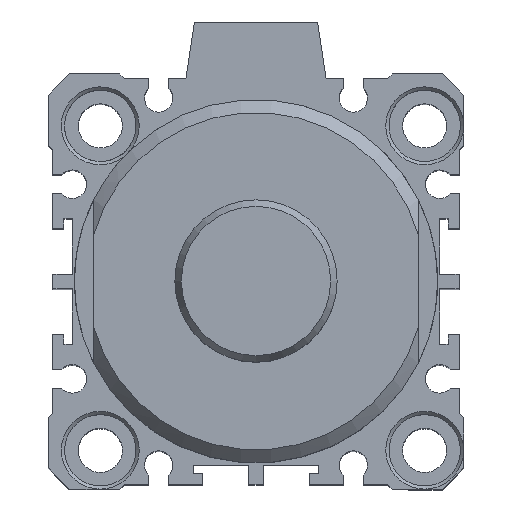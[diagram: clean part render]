
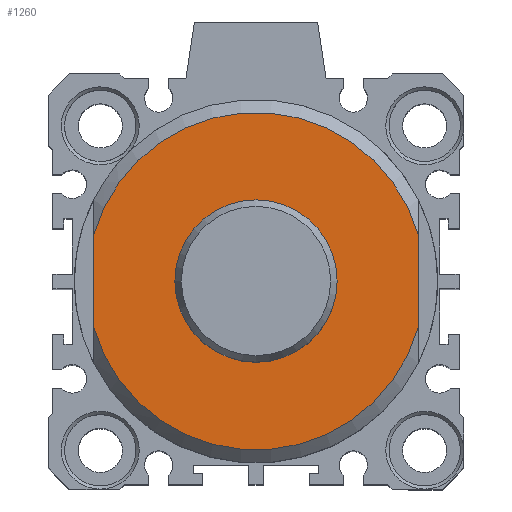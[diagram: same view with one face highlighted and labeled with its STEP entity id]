
A CAD part, top view. The second image highlights one B-rep face of the part: STEP entity #1260.
In plain terms, the highlighted planar face has unit normal (0, 0, 1).
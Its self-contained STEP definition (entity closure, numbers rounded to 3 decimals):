
#49=CARTESIAN_POINT('',(17.943,8.936,102.));
#50=VERTEX_POINT('',#49);
#75=CARTESIAN_POINT('',(-32.057,8.936,102.));
#76=VERTEX_POINT('',#75);
#90=CARTESIAN_POINT('',(-7.057,1.794,102.));
#91=DIRECTION('',(0.0,0.0,-1.0));
#92=DIRECTION('',(0.0,1.0,0.0));
#93=AXIS2_PLACEMENT_3D('',#90,#91,#92);
#94=CIRCLE('',#93,26.0);
#95=EDGE_CURVE('',#76,#50,#94,.T.);
#130=CARTESIAN_POINT('',(-32.057,-5.347,102.));
#131=VERTEX_POINT('',#130);
#145=CARTESIAN_POINT('',(-32.057,8.936,102.));
#146=DIRECTION('',(0.0,-1.0,0.0));
#147=VECTOR('',#146,14.283);
#148=LINE('',#145,#147);
#149=EDGE_CURVE('',#76,#131,#148,.T.);
#240=CARTESIAN_POINT('',(17.943,-5.347,102.));
#241=VERTEX_POINT('',#240);
#255=CARTESIAN_POINT('',(-7.057,1.794,102.));
#256=DIRECTION('',(0.0,0.0,-1.0));
#257=DIRECTION('',(0.0,-1.0,0.0));
#258=AXIS2_PLACEMENT_3D('',#255,#256,#257);
#259=CIRCLE('',#258,26.0);
#260=EDGE_CURVE('',#241,#131,#259,.T.);
#1178=CARTESIAN_POINT('',(-7.057,14.294,102.));
#1179=VERTEX_POINT('',#1178);
#1180=CARTESIAN_POINT('',(-7.057,1.794,102.));
#1181=DIRECTION('',(0.0,0.0,-1.0));
#1182=DIRECTION('',(0.0,1.0,0.0));
#1183=AXIS2_PLACEMENT_3D('',#1180,#1181,#1182);
#1184=CIRCLE('',#1183,12.5);
#1185=EDGE_CURVE('',#1179,#1179,#1184,.T.);
#1208=CARTESIAN_POINT('',(17.943,-5.347,102.));
#1209=DIRECTION('',(0.0,1.0,0.0));
#1210=VECTOR('',#1209,14.283);
#1211=LINE('',#1208,#1210);
#1212=EDGE_CURVE('',#241,#50,#1211,.T.);
#1246=CARTESIAN_POINT('',(-7.057,22.044,102.));
#1247=DIRECTION('',(0.0,0.0,1.0));
#1248=DIRECTION('',(1.0,0.0,0.0));
#1249=AXIS2_PLACEMENT_3D('',#1246,#1247,#1248);
#1250=PLANE('',#1249);
#1251=ORIENTED_EDGE('',*,*,#95,.F.);
#1252=ORIENTED_EDGE('',*,*,#149,.T.);
#1253=ORIENTED_EDGE('',*,*,#260,.F.);
#1254=ORIENTED_EDGE('',*,*,#1212,.T.);
#1255=EDGE_LOOP('',(#1251,#1252,#1253,#1254));
#1256=FACE_OUTER_BOUND('',#1255,.T.);
#1257=ORIENTED_EDGE('',*,*,#1185,.T.);
#1258=EDGE_LOOP('',(#1257));
#1259=FACE_BOUND('',#1258,.T.);
#1260=ADVANCED_FACE('',(#1256,#1259),#1250,.T.);
